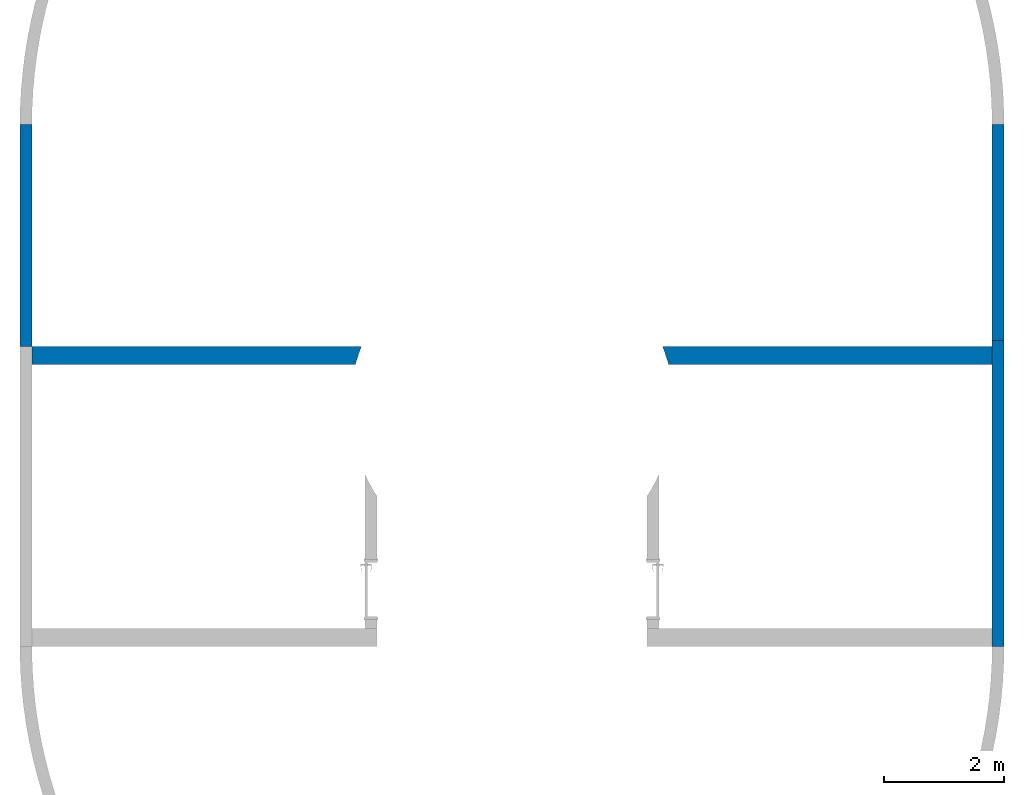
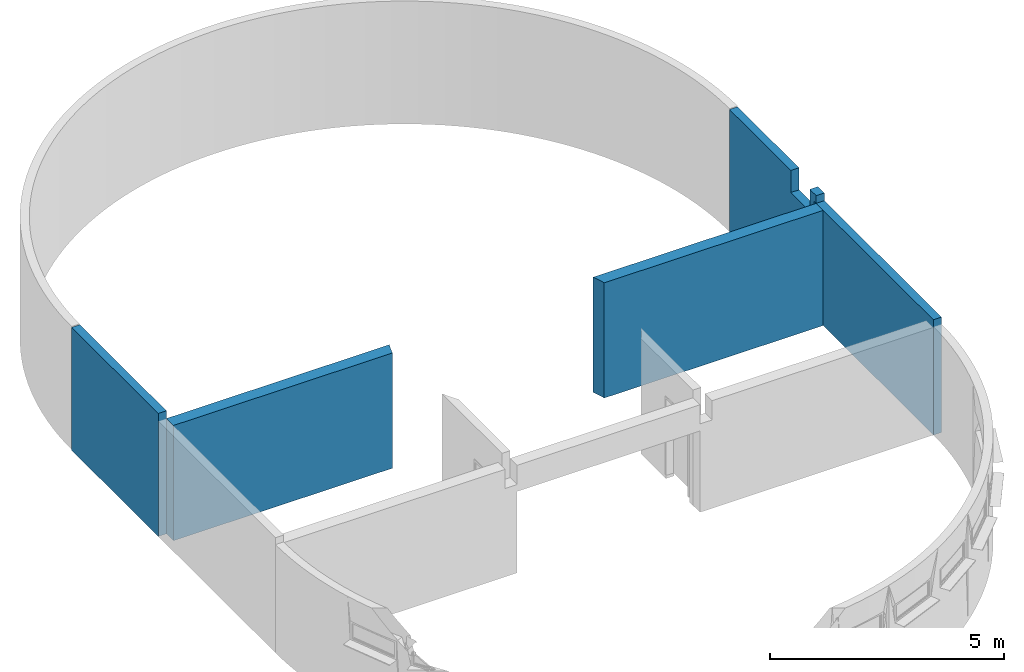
# One storey, part 5 of 6: 5 walls, 2 openings.
"""IFC4 building model written with IfcOpenShell, lengths in millimetres."""

from ifc_helpers import new_model, entity, si_unit, converted_unit, derived_unit, direction, frame, origin_with_axes, place, context, subcontext, project, spatial, polygons, material, constituent, constituent_set, type_object, element, save


model = new_model("IFC4")

# Units and contexts
model_context = context("Model", 3, precision=0.01, world=origin_with_axes(), true_north=direction((0.0, 1.0)))
body_context = subcontext(model_context, "Body", "Model", "MODEL_VIEW")
ifc_project = project(units=[si_unit("LENGTHUNIT", "METRE", prefix="MILLI"), si_unit("AREAUNIT", "SQUARE_METRE"), si_unit("VOLUMEUNIT", "CUBIC_METRE"), converted_unit("PLANEANGLEUNIT", "DEGREE", entity("IfcPlaneAngleMeasure", 0.0174532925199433), si_unit("PLANEANGLEUNIT", "RADIAN"), dimensions=[0, 0, 0, 0, 0, 0, 0]), converted_unit("TIMEUNIT", "Year", entity("IfcTimeMeasure", 31557600.0), si_unit("TIMEUNIT", "SECOND"), dimensions=[0, 0, 1, 0, 0, 0, 0]), si_unit("MASSUNIT", "GRAM", prefix="KILO"), si_unit("THERMODYNAMICTEMPERATUREUNIT", "DEGREE_CELSIUS"), si_unit("LUMINOUSINTENSITYUNIT", "LUMEN"), si_unit("ENERGYUNIT", "JOULE", prefix="MEGA"), derived_unit("THERMALCONDUCTANCEUNIT", [(si_unit("POWERUNIT", "WATT"), 1), (si_unit("LENGTHUNIT", "METRE"), -1), (si_unit("THERMODYNAMICTEMPERATUREUNIT", "KELVIN"), -1)]), derived_unit("SPECIFICHEATCAPACITYUNIT", [(si_unit("ENERGYUNIT", "JOULE"), 1), (si_unit("MASSUNIT", "GRAM", prefix="KILO"), -1), (si_unit("THERMODYNAMICTEMPERATUREUNIT", "KELVIN"), -1)]), derived_unit("MASSDENSITYUNIT", [(si_unit("MASSUNIT", "GRAM", prefix="KILO"), 1), (si_unit("VOLUMEUNIT", "CUBIC_METRE"), -1)])], contexts=[model_context])

# Site, building, storey
site_placement = place(None, origin_with_axes())
site = spatial("IfcSite", under=ifc_project, at=site_placement, Name="Exteriér", CompositionType="ELEMENT")
building_placement = place(site_placement, origin_with_axes())
building = spatial("IfcBuilding", under=site, at=building_placement, Name="Univerzitní lezecké centrum", CompositionType="ELEMENT")
storey_placement = place(building_placement, frame((0.0, 0.0, 6400.0), z_axis=(0.0, 0.0, 1.0), x_axis=(1.0, 0.0, 0.0)))
storey = spatial("IfcBuildingStorey", under=building, at=storey_placement, Name="3.NP", CompositionType="ELEMENT", Elevation=6400.0)

# Wall
ifc_material_1 = material(Name="Beton vyztužený - vnější svislé kce")
ifc_constituent_1 = constituent(ifc_material_1, Name="Beton vyztužený - vnější svislé kce")
ifc_constituent_set_1 = constituent_set(constituents=[ifc_constituent_1], Name="!Vnější betonová stěna 200 mm")
wall_type_1 = type_object("IfcWallType", Name="!Vnější betonová stěna 200 mm 200", PredefinedType="NOTDEFINED")
wall_1_placement = place(storey_placement, frame((-5550.148351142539, 8400.000000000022, -120.0000000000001), z_axis=(0.0, 0.0, 1.0), x_axis=(0.0, -1.0, 0.0)))
element("IfcWall", 1, at=wall_1_placement, inside=storey, type_object=wall_type_1, material=ifc_constituent_set_1, Name="St01", PredefinedType="NOTDEFINED", context=body_context, shape_type="Tessellation", body=[
    polygons([(3700.000000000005, -200.0000000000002, 3000.000000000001), (3700.000000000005, 0.0, 3000.000000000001), (3700.000000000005, 0.0, 3200.000000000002), (3700.000000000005, -200.0000000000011, 3200.000000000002), (3700.000000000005, 0.0, 0.0), (3700.000000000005, -200.0000000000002, 0.0), (0.0, 0.0, 0.0), (0.0, 0.0, 3200.000000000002), (0.0, -200.0000000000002, 3200.000000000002), (0.0, -200.0000000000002, 0.0)], [[[1, 2, 3, 4]], [[5, 2, 1, 6]], [[2, 5, 7, 8, 3]], [[9, 4, 3, 8]], [[6, 1, 4, 9, 10]], [[5, 6, 10, 7]], [[9, 8, 7, 10]]], closed=True),
])

# Wall, openings
ifc_constituent_2 = constituent(ifc_material_1, Name="Beton vyztužený - vnější svislé kce")
ifc_constituent_set_2 = constituent_set(constituents=[ifc_constituent_2], Name="!Vnější betonová stěna 200 mm")
wall_2_placement = place(storey_placement, frame((10449.85164885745, 8399.999999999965, -120.000000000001), z_axis=(0.0, 0.0, 1.0), x_axis=(0.0, -1.0, 0.0)))
wall_2 = element("IfcWall", 2, at=wall_2_placement, inside=storey, type_object=wall_type_1, material=ifc_constituent_set_2, Name="St01", PredefinedType="NOTDEFINED", context=body_context, shape_type="Tessellation", body=[
    polygons([(3600.000000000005, 200.0000000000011, 3000.000000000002), (3600.000000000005, 199.9999999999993, 0.0), (0.0, 199.9999999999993, 0.0), (0.0, 200.0000000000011, 3200.000000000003), (2619.196412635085, 200.0000000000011, 3200.000000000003), (2619.196412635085, 200.0000000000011, 2625.668009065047), (3429.669165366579, 200.0000000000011, 2625.668009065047), (3429.669165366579, 200.0000000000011, 3200.000000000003), (3700.000000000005, 200.0000000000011, 3200.000000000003), (3700.000000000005, 200.0000000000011, 3000.000000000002), (2482.756469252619, 200.0000000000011, 353.2574874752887), (3412.756469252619, 200.0000000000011, 353.2574874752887), (3412.756469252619, 200.0000000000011, 1183.257487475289), (2482.756469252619, 200.0000000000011, 1183.257487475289), (3600.000000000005, 0.0, 3000.000000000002), (3600.000000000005, 0.0, 0.0), (0.0, 0.0, 0.0), (0.0, 0.0, 3200.000000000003), (2619.196412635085, 0.0, 3200.000000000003), (2619.196412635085, 0.0, 2625.668009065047), (3429.669165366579, 0.0, 2625.668009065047), (3429.669165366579, 0.0, 3200.000000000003), (3700.000000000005, 0.0, 3200.000000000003), (3700.000000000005, 0.0, 3000.000000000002), (3412.756469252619, 0.0, 353.2574874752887), (2482.756469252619, 0.0, 353.2574874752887), (3412.756469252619, 0.0, 1183.257487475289), (2482.756469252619, 0.0, 1183.257487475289)], [[[1, 2, 3, 4, 5, 6, 7, 8, 9, 10], [11, 12, 13, 14]], [[2, 1, 15, 16]], [[2, 16, 17, 3]], [[4, 3, 17, 18]], [[18, 19, 5, 4]], [[20, 6, 5, 19]], [[21, 7, 6, 20]], [[21, 22, 8, 7]], [[9, 8, 22, 23]], [[24, 10, 9, 23]], [[1, 10, 24, 15]], [[25, 12, 11, 26]], [[27, 13, 12, 25]], [[28, 14, 13, 27]], [[26, 11, 14, 28]], [[15, 24, 23, 22, 21, 20, 19, 18, 17, 16], [27, 25, 26, 28]]], closed=True),
])
opening_1_placement = place(wall_2_placement, frame((8399.999999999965, -10449.85164885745, -6279.999999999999), z_axis=(0.0, 0.0, 1.0), x_axis=(0.0, 1.0, 0.0)))
element("IfcOpeningElement", 3, at=opening_1_placement, cuts=wall_2, Name="Pr02", PredefinedType="NOTDEFINED", context=body_context, identifier="Reference", shape_type="Tessellation", body=[
    polygons([(10249.85164885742, 5917.243530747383, 6633.257487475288), (10249.85164885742, 5917.243530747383, 7463.257487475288), (10849.85164885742, 5917.243530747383, 7463.257487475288), (10849.85164885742, 5917.243530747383, 6633.257487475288), (10249.85164885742, 4987.243530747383, 6633.257487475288), (10249.85164885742, 4987.243530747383, 7463.257487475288), (10849.85164885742, 4987.243530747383, 7463.257487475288), (10849.85164885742, 4987.243530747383, 6633.257487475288)], [[[1, 2, 3, 4]], [[1, 5, 6, 2]], [[2, 6, 7, 3]], [[4, 3, 7, 8]], [[5, 1, 4, 8]], [[6, 5, 8, 7]]], closed=True),
])
opening_2_placement = place(wall_2_placement, frame((8399.999999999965, -10449.85164885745, -6279.999999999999), z_axis=(0.0, 0.0, 1.0), x_axis=(0.0, 1.0, 0.0)))
element("IfcOpeningElement", 4, at=opening_2_placement, cuts=wall_2, Name="Pr03", PredefinedType="NOTDEFINED", context=body_context, identifier="Reference", shape_type="Tessellation", body=[
    polygons([(10249.85164885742, 5780.803587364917, 8905.668009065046), (10249.85164885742, 5780.803587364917, 9480.668009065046), (10849.85164885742, 5780.803587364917, 9480.668009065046), (10849.85164885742, 5780.803587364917, 8905.668009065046), (10249.85164885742, 4970.330834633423, 8905.668009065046), (10249.85164885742, 4970.330834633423, 9480.668009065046), (10849.85164885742, 4970.330834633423, 9480.668009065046), (10849.85164885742, 4970.330834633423, 8905.668009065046)], [[[1, 2, 3, 4]], [[1, 5, 6, 2]], [[2, 6, 7, 3]], [[4, 3, 7, 8]], [[5, 1, 4, 8]], [[6, 5, 8, 7]]], closed=True),
])

# Walls
ifc_constituent_3 = constituent(ifc_material_1, Name="Beton vyztužený - vnější svislé kce")
ifc_constituent_set_3 = constituent_set(constituents=[ifc_constituent_3], Name="!Vnější betonová stěna 200 mm")
wall_3_placement = place(storey_placement, frame((10449.85164885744, 4699.99999999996, -120.000000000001), z_axis=(0.0, 0.0, 1.0), x_axis=(0.0, -1.0, 0.0)))
element("IfcWall", 5, at=wall_3_placement, inside=storey, type_object=wall_type_1, material=ifc_constituent_set_3, Name="St01", PredefinedType="NOTDEFINED", context=body_context, shape_type="Tessellation", body=[
    polygons([(-99.99999999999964, 0.0, 3000.000000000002), (5000.0, 0.0, 3000.000000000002), (5000.0, 199.9999999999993, 3000.000000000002), (-99.99999999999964, 200.0000000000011, 3000.000000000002), (-99.99999999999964, 0.0, 0.0), (5000.0, 0.0, 0.0), (5000.0, 199.9999999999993, 0.0), (-99.99999999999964, 199.9999999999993, 0.0)], [[[1, 2, 3, 4]], [[5, 6, 2, 1]], [[3, 2, 6, 7]], [[4, 3, 7, 8]], [[5, 1, 4, 8]], [[8, 7, 6, 5]]], closed=True),
])
ifc_material_2 = material(Name="Beton vyztužený - vnitřní svislé kce")
ifc_constituent_4 = constituent(ifc_material_2, Name="Beton vyztužený - vnitřní svislé kce")
ifc_constituent_set_4 = constituent_set(constituents=[ifc_constituent_4], Name="!Vnitřní betonová stěna 300 mm")
wall_type_2 = type_object("IfcWallType", Name="!Vnitřní betonová stěna 300 mm 300", PredefinedType="NOTDEFINED")
wall_4_placement = place(storey_placement, frame((4741.139496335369, 4699.999999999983, -120.000000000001), z_axis=(0.0, 0.0, 1.0), x_axis=(1.0, 0.0, 0.0)))
element("IfcWall", 6, at=wall_4_placement, inside=storey, type_object=wall_type_2, material=ifc_constituent_set_4, Name="St04", PredefinedType="NOTDEFINED", context=body_context, shape_type="Tessellation", body=[
    polygons([(5708.712152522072, -299.9999999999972, 3000.000000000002), (5708.712152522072, 0.0, 3000.000000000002), (216.7398023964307, 0.0, 3000.000000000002), (253.2661307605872, -93.031968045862, 3000.000000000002), (305.6665879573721, -256.2435752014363, 3000.000000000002), (316.7088482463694, -300.0000000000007, 3000.000000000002), (5708.712152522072, 0.0, 0.0), (5708.712152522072, -299.9999999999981, 0.0), (216.7398023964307, 0.0, 0.0), (253.2661307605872, -93.031968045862, 0.0), (305.6665879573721, -256.2435752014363, 0.0), (316.7088482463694, -300.0000000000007, 0.0)], [[[1, 2, 3, 4, 5, 6]], [[7, 2, 1, 8]], [[2, 7, 9, 3]], [[4, 3, 9, 10]], [[5, 4, 10, 11]], [[12, 6, 5, 11]], [[8, 1, 6, 12]], [[7, 8, 12, 11, 10, 9]]], closed=True),
])
ifc_constituent_5 = constituent(ifc_material_2, Name="Beton vyztužený - vnitřní svislé kce")
ifc_constituent_set_5 = constituent_set(constituents=[ifc_constituent_5], Name="!Vnitřní betonová stěna 300 mm")
wall_5_placement = place(storey_placement, frame((-5550.148351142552, 4700.000000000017, -120.000000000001), z_axis=(0.0, 0.0, 1.0), x_axis=(1.0, 0.0, 0.0)))
element("IfcWall", 7, at=wall_5_placement, inside=storey, type_object=wall_type_2, material=ifc_constituent_set_5, Name="St04", PredefinedType="NOTDEFINED", context=body_context, shape_type="Tessellation", body=[
    polygons([(5396.315327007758, -280.1582932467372, 3000.000000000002), (5447.21256919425, -116.4716799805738, 3000.000000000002), (5491.709955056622, 0.0, 3000.000000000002), (0.0, 0.0, 3000.000000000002), (0.0, -299.9999999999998, 3000.000000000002), (5391.50178103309, -300.0000000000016, 3000.000000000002), (5396.315327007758, -280.1582932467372, 0.0), (5447.21256919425, -116.4716799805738, 0.0), (5491.709955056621, 0.0, 0.0), (0.0, 0.0, 0.0), (0.0, -299.9999999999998, 0.0), (5391.50178103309, -300.0000000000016, 0.0)], [[[1, 2, 3, 4, 5, 6]], [[2, 1, 7, 8]], [[9, 3, 2, 8]], [[3, 9, 10, 4]], [[5, 4, 10, 11]], [[12, 6, 5, 11]], [[1, 6, 12, 7]], [[7, 12, 11, 10, 9, 8]]], closed=True),
])

save(model, "model.ifc")
